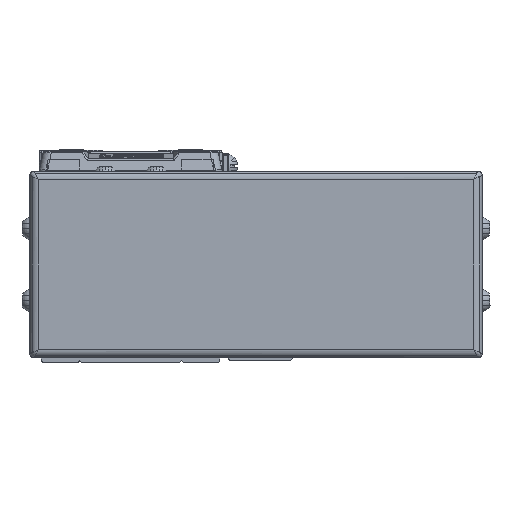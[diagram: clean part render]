
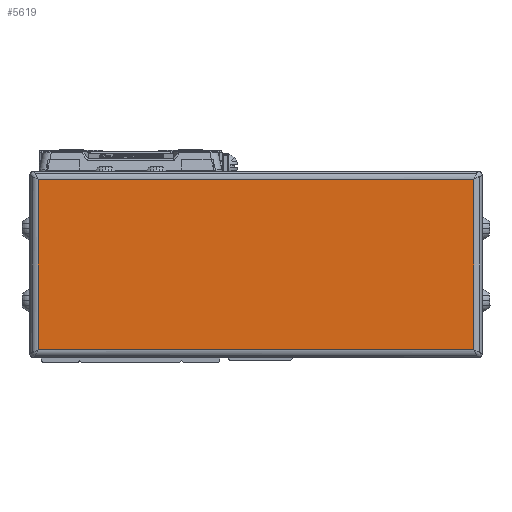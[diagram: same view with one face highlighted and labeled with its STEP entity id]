
A CAD part, left-side view. The second image highlights one B-rep face of the part: STEP entity #5619.
In plain terms, the highlighted planar face has unit normal (-1, 0, 0).
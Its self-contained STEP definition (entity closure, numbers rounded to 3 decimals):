
#5619=ADVANCED_FACE('',(#12102),#12103,.T.);
#12102=FACE_OUTER_BOUND('',#21830,.T.);
#12103=PLANE('',#21831);
#21830=EDGE_LOOP('',(#38850,#38851,#38852,#38853));
#21831=AXIS2_PLACEMENT_3D('',#38854,#38855,#38856);
#38850=ORIENTED_EDGE('',*,*,#47026,.F.);
#38851=ORIENTED_EDGE('',*,*,#50870,.F.);
#38852=ORIENTED_EDGE('',*,*,#52424,.F.);
#38853=ORIENTED_EDGE('',*,*,#52977,.F.);
#38854=CARTESIAN_POINT('',(-48.,-29.5,-4.));
#38855=DIRECTION('',(-1.0,0.,0.));
#38856=DIRECTION('',(0.,0.,1.0));
#47026=EDGE_CURVE('',#55542,#55544,#55545,.T.);
#50870=EDGE_CURVE('',#61923,#55542,#61925,.T.);
#52424=EDGE_CURVE('',#63081,#61923,#64140,.T.);
#52977=EDGE_CURVE('',#55544,#63081,#64878,.T.);
#55542=VERTEX_POINT('',#67888);
#55544=VERTEX_POINT('',#67890);
#55545=LINE('',#67891,#67892);
#61923=VERTEX_POINT('',#76945);
#61925=LINE('',#76947,#76948);
#63081=VERTEX_POINT('',#78882);
#64140=LINE('',#80407,#80408);
#64878=LINE('',#81434,#81435);
#67888=CARTESIAN_POINT('',(-48.,21.7,16.));
#67890=CARTESIAN_POINT('',(-48.,-80.7,16.));
#67891=CARTESIAN_POINT('',(-48.,-29.5,16.));
#67892=VECTOR('',#85053,10.0);
#76945=CARTESIAN_POINT('',(-48.,21.7,-24.));
#76947=CARTESIAN_POINT('',(-48.,21.7,-4.));
#76948=VECTOR('',#90195,10.0);
#78882=CARTESIAN_POINT('',(-48.,-80.7,-24.));
#80407=CARTESIAN_POINT('',(-48.,-29.5,-24.));
#80408=VECTOR('',#92121,10.0);
#81434=CARTESIAN_POINT('',(-48.,-80.7,-4.));
#81435=VECTOR('',#92870,10.0);
#85053=DIRECTION('',(0.,-1.0,0.));
#90195=DIRECTION('',(0.,0.,1.0));
#92121=DIRECTION('',(0.,1.0,0.));
#92870=DIRECTION('',(0.,0.,-1.0));
